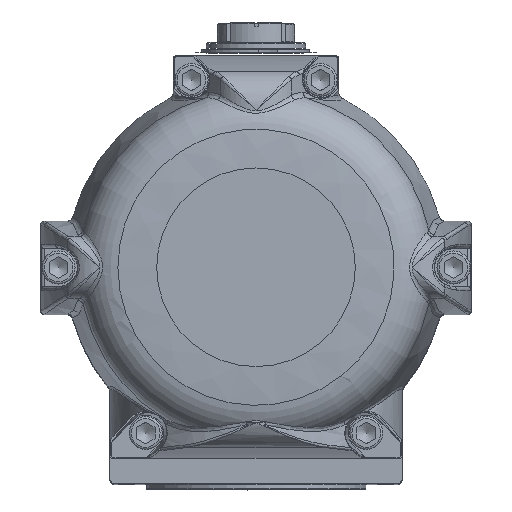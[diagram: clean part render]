
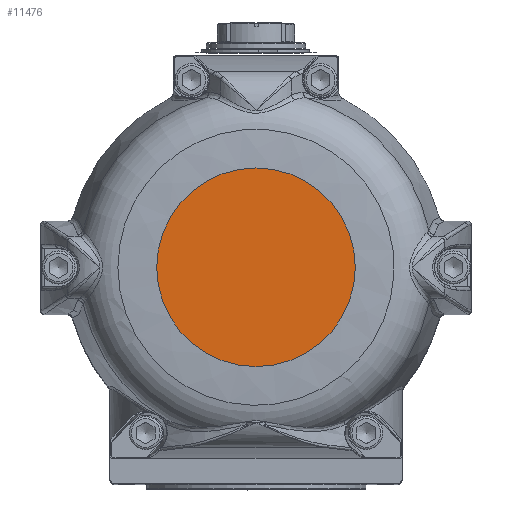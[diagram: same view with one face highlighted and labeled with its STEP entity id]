
A CAD part, top view. The second image highlights one B-rep face of the part: STEP entity #11476.
In plain terms, the highlighted planar face has unit normal (0, 0, 1).
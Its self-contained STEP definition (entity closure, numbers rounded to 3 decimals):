
#11460=CARTESIAN_POINT('',(-45.,0.,411.5));
#11461=DIRECTION('',(0.0,0.0,1.0));
#11462=DIRECTION('',(0.0,-1.0,0.0));
#11463=AXIS2_PLACEMENT_3D('',#11460,#11461,#11462);
#11464=PLANE('',#11463);
#11465=CARTESIAN_POINT('',(-90.,0.,411.5));
#11466=VERTEX_POINT('',#11465);
#11467=CARTESIAN_POINT('',(0.,0.,411.5));
#11468=DIRECTION('',(0.0,0.0,-1.0));
#11469=DIRECTION('',(-1.0,0.0,0.0));
#11470=AXIS2_PLACEMENT_3D('',#11467,#11468,#11469);
#11471=CIRCLE('',#11470,90.0);
#11472=EDGE_CURVE('',#11466,#11466,#11471,.T.);
#11473=ORIENTED_EDGE('',*,*,#11472,.F.);
#11474=EDGE_LOOP('',(#11473));
#11475=FACE_OUTER_BOUND('',#11474,.T.);
#11476=ADVANCED_FACE('',(#11475),#11464,.T.);
